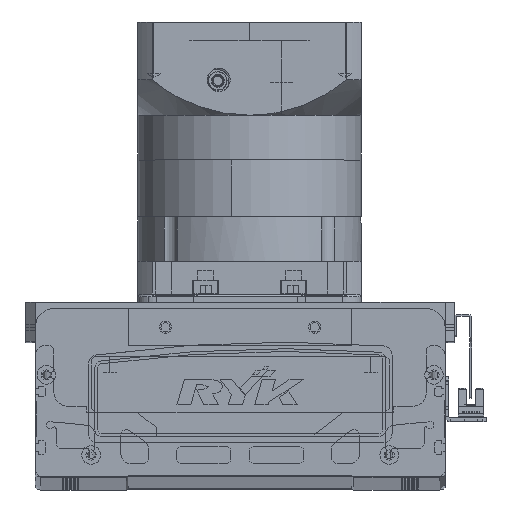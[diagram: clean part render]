
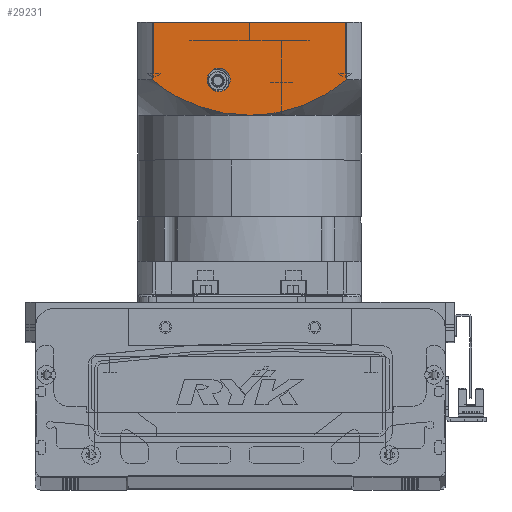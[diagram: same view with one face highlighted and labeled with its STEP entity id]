
A CAD part, top view. The second image highlights one B-rep face of the part: STEP entity #29231.
In plain terms, the highlighted planar face has unit normal (0, 0, 1) as drawn and (0, -1, 0) by its records, which use the part's own axes.
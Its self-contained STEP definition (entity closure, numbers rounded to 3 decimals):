
#1612 = CARTESIAN_POINT ( 'NONE',  ( 16.5, -60., -119.5 ) ) ;
#1693 = CARTESIAN_POINT ( 'NONE',  ( -52.156, -60., -97.5 ) ) ;
#2186 = CARTESIAN_POINT ( 'NONE',  ( 18.739, -60., -102.681 ) ) ;
#7139 = DIRECTION ( 'NONE',  ( 0., 0., -1. ) ) ;
#8385 = VERTEX_POINT ( 'NONE', #24710 ) ;
#8524 = CARTESIAN_POINT ( 'NONE',  ( 23.329, -60., -103.886 ) ) ;
#8807 = DIRECTION ( 'NONE',  ( 0., 0., -1. ) ) ;
#9208 = CARTESIAN_POINT ( 'NONE',  ( -23.319, -60., -103.777 ) ) ;
#9478 = CARTESIAN_POINT ( 'NONE',  ( -52.156, -60., -119.5 ) ) ;
#10022 = CARTESIAN_POINT ( 'NONE',  ( 0., -60., -100.5 ) ) ;
#10420 = CARTESIAN_POINT ( 'NONE',  ( 48.457, -60., -116.522 ) ) ;
#11140 = CIRCLE ( 'NONE', #76501, 6.25 ) ;
#11905 = FACE_OUTER_BOUND ( 'NONE', #17257, .T. ) ;
#12424 = AXIS2_PLACEMENT_3D ( 'NONE', #52179, #51376, #8807 ) ;
#12917 = EDGE_CURVE ( 'NONE', #76441, #50078, #41246, .T. ) ;
#14464 = ORIENTED_EDGE ( 'NONE', *, *, #21023, .T. ) ;
#14758 = CARTESIAN_POINT ( 'NONE',  ( 52.156, -60., -150.5 ) ) ;
#15540 = ORIENTED_EDGE ( 'NONE', *, *, #47400, .T. ) ;
#15911 = CARTESIAN_POINT ( 'NONE',  ( 44.553, -60., -113.817 ) ) ;
#16051 = CARTESIAN_POINT ( 'NONE',  ( -32.118, -60., -107.084 ) ) ;
#17257 = EDGE_LOOP ( 'NONE', ( #59484, #61244, #15540, #31178, #43411 ) ) ;
#17493 = CARTESIAN_POINT ( 'NONE',  ( -60., -60., -150.5 ) ) ;
#19304 = CARTESIAN_POINT ( 'NONE',  ( 16.5, -60., -125.75 ) ) ;
#20744 = DIRECTION ( 'NONE',  ( 0., -1., 0. ) ) ;
#21023 = EDGE_CURVE ( 'NONE', #47726, #78178, #65356, .T. ) ;
#21737 = CARTESIAN_POINT ( 'NONE',  ( -11.825, -60., -101.356 ) ) ;
#21769 = LINE ( 'NONE', #17493, #53026 ) ;
#22084 = CARTESIAN_POINT ( 'NONE',  ( 52.156, -60., -150.5 ) ) ;
#22418 = CARTESIAN_POINT ( 'NONE',  ( 50.338, -60., -117.969 ) ) ;
#24710 = CARTESIAN_POINT ( 'NONE',  ( -52.156, -60., -119.5 ) ) ;
#26776 = CARTESIAN_POINT ( 'NONE',  ( 4.753, -60., -100.5 ) ) ;
#27027 = CARTESIAN_POINT ( 'NONE',  ( 9.454, -60., -100.914 ) ) ;
#27591 = CARTESIAN_POINT ( 'NONE',  ( 15.267, -60., -101.938 ) ) ;
#27803 = DIRECTION ( 'NONE',  ( 1., 0., 0. ) ) ;
#28260 = CARTESIAN_POINT ( 'NONE',  ( -9.477, -60., -101.046 ) ) ;
#28678 = CARTESIAN_POINT ( 'NONE',  ( 41.545, -60., -111.931 ) ) ;
#29231 = ADVANCED_FACE ( 'NONE', ( #11905, #59701 ), #45829, .T. ) ;
#31178 = ORIENTED_EDGE ( 'NONE', *, *, #12917, .F. ) ;
#32335 = VERTEX_POINT ( 'NONE', #14758 ) ;
#33357 = CARTESIAN_POINT ( 'NONE',  ( 19.894, -60., -102.964 ) ) ;
#34318 = CARTESIAN_POINT ( 'NONE',  ( -38.51, -60., -110.207 ) ) ;
#36467 = AXIS2_PLACEMENT_3D ( 'NONE', #40401, #20744, #27803 ) ;
#38824 = DIRECTION ( 'NONE',  ( 0., 1., 0. ) ) ;
#40401 = CARTESIAN_POINT ( 'NONE',  ( -60., -60., -150.5 ) ) ;
#40854 = CARTESIAN_POINT ( 'NONE',  ( -8.294, -60., -100.916 ) ) ;
#41246 = B_SPLINE_CURVE_WITH_KNOTS ( 'NONE', 3,
 ( #57920, #26776, #27027, #27591, #70733, #2186, #33357, #8524, #45890, #64744, #59812, #28678, #47784, #15911, #53266, #10420, #22418, #59529 ),
 .UNSPECIFIED., .F., .F.,
 ( 4, 2, 2, 2, 2, 2, 2, 2, 4 ),
 ( 0., 0.014, 0.018, 0.021, 0.028, 0.042, 0.046, 0.05, 0.057 ),
 .UNSPECIFIED. ) ;
#41607 = EDGE_CURVE ( 'NONE', #74570, #32335, #21769, .T. ) ;
#43411 = ORIENTED_EDGE ( 'NONE', *, *, #51978, .F. ) ;
#45829 = PLANE ( 'NONE',  #36467 ) ;
#45877 = CARTESIAN_POINT ( 'NONE',  ( 0., -60., -100.5 ) ) ;
#45890 = CARTESIAN_POINT ( 'NONE',  ( 25.577, -60., -104.596 ) ) ;
#47371 = CARTESIAN_POINT ( 'NONE',  ( -2.376, -60., -100.5 ) ) ;
#47400 = EDGE_CURVE ( 'NONE', #32335, #50078, #72724, .T. ) ;
#47726 = VERTEX_POINT ( 'NONE', #19304 ) ;
#47784 = CARTESIAN_POINT ( 'NONE',  ( 42.555, -60., -112.543 ) ) ;
#48301 = DIRECTION ( 'NONE',  ( 1., 0., 0. ) ) ;
#50078 = VERTEX_POINT ( 'NONE', #69375 ) ;
#51318 = CARTESIAN_POINT ( 'NONE',  ( -52.156, -60., -150.5 ) ) ;
#51376 = DIRECTION ( 'NONE',  ( 0., 1., 0. ) ) ;
#51720 = ORIENTED_EDGE ( 'NONE', *, *, #56869, .T. ) ;
#51725 = LINE ( 'NONE', #1693, #81033 ) ;
#51978 = EDGE_CURVE ( 'NONE', #8385, #76441, #73201, .T. ) ;
#52179 = CARTESIAN_POINT ( 'NONE',  ( 16.5, -60., -119.5 ) ) ;
#53026 = VECTOR ( 'NONE', #48301, 1000. ) ;
#53135 = CARTESIAN_POINT ( 'NONE',  ( -36.409, -60., -109.113 ) ) ;
#53266 = CARTESIAN_POINT ( 'NONE',  ( 45.542, -60., -114.478 ) ) ;
#53512 = CARTESIAN_POINT ( 'NONE',  ( 16.5, -60., -113.25 ) ) ;
#56216 = EDGE_LOOP ( 'NONE', ( #14464, #51720 ) ) ;
#56869 = EDGE_CURVE ( 'NONE', #78178, #47726, #11140, .T. ) ;
#57920 = CARTESIAN_POINT ( 'NONE',  ( 0., -60., -100.5 ) ) ;
#58864 = CARTESIAN_POINT ( 'NONE',  ( -39.546, -60., -110.776 ) ) ;
#59484 = ORIENTED_EDGE ( 'NONE', *, *, #73953, .F. ) ;
#59529 = CARTESIAN_POINT ( 'NONE',  ( 52.156, -60., -119.5 ) ) ;
#59701 = FACE_BOUND ( 'NONE', #56216, .T. ) ;
#59812 = CARTESIAN_POINT ( 'NONE',  ( 36.444, -60., -108.986 ) ) ;
#61244 = ORIENTED_EDGE ( 'NONE', *, *, #41607, .T. ) ;
#64744 = CARTESIAN_POINT ( 'NONE',  ( 32.196, -60., -107.007 ) ) ;
#65356 = CIRCLE ( 'NONE', #12424, 6.25 ) ;
#65688 = CARTESIAN_POINT ( 'NONE',  ( -48.52, -60., -116.438 ) ) ;
#65946 = CARTESIAN_POINT ( 'NONE',  ( -18.792, -60., -102.562 ) ) ;
#69375 = CARTESIAN_POINT ( 'NONE',  ( 52.156, -60., -119.5 ) ) ;
#70729 = VECTOR ( 'NONE', #72036, 1000. ) ;
#70733 = CARTESIAN_POINT ( 'NONE',  ( 16.426, -60., -102.169 ) ) ;
#71154 = CARTESIAN_POINT ( 'NONE',  ( -4.747, -60., -100.604 ) ) ;
#72036 = DIRECTION ( 'NONE',  ( 0., 0., 1. ) ) ;
#72724 = LINE ( 'NONE', #22084, #70729 ) ;
#73201 = B_SPLINE_CURVE_WITH_KNOTS ( 'NONE', 3,
 ( #9478, #65688, #77955, #58864, #34318, #53135, #77686, #16051, #78233, #9208, #65946, #78519, #21737, #28260, #40854, #71154, #47371, #10022 ),
 .UNSPECIFIED., .F., .F.,
 ( 4, 2, 2, 2, 2, 2, 2, 2, 4 ),
 ( 0., 0.014, 0.018, 0.021, 0.028, 0.042, 0.046, 0.05, 0.057 ),
 .UNSPECIFIED. ) ;
#73953 = EDGE_CURVE ( 'NONE', #74570, #8385, #51725, .T. ) ;
#74570 = VERTEX_POINT ( 'NONE', #51318 ) ;
#76239 = DIRECTION ( 'NONE',  ( 0., 0., 1. ) ) ;
#76441 = VERTEX_POINT ( 'NONE', #45877 ) ;
#76501 = AXIS2_PLACEMENT_3D ( 'NONE', #1612, #38824, #7139 ) ;
#77686 = CARTESIAN_POINT ( 'NONE',  ( -35.342, -60., -108.587 ) ) ;
#77955 = CARTESIAN_POINT ( 'NONE',  ( -44.656, -60., -113.73 ) ) ;
#78178 = VERTEX_POINT ( 'NONE', #53512 ) ;
#78233 = CARTESIAN_POINT ( 'NONE',  ( -29.939, -60., -106.183 ) ) ;
#78519 = CARTESIAN_POINT ( 'NONE',  ( -12.993, -60., -101.537 ) ) ;
#81033 = VECTOR ( 'NONE', #76239, 1000. ) ;
